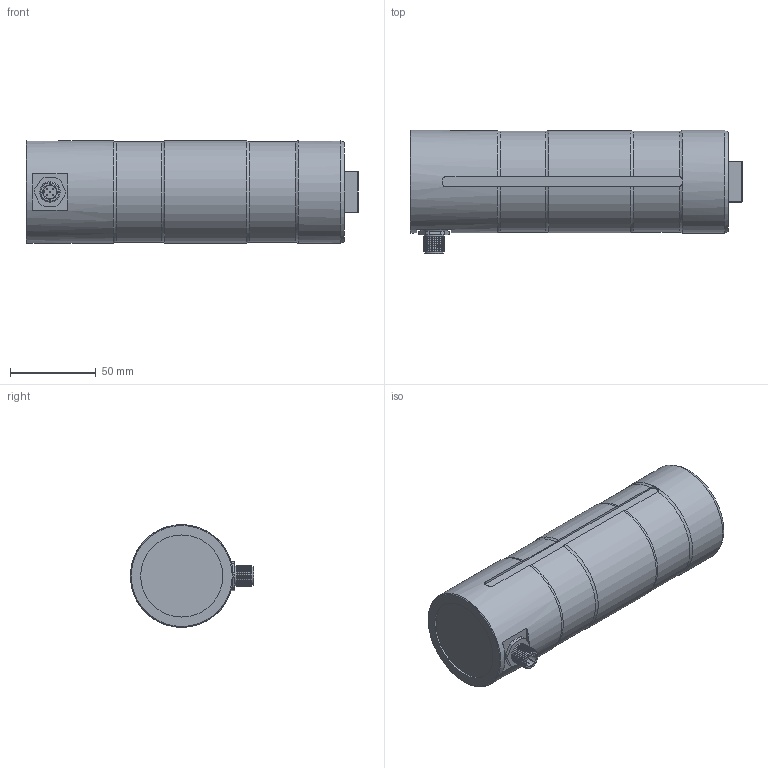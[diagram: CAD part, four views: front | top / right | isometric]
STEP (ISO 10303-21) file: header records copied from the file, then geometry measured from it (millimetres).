
FILE_DESCRIPTION(/* description */ ('Alibre Inc.'),/* implementation_level */ '2;1');
FILE_NAME(/* name */ 'export-D8C0DAAE-51BF-4E37-818E-D8114CFEE843',/* time_stamp */ '2020-02-28T15:23:49+01:00',/* author */ (''),/* organization */ (''),/* preprocessor_version */ 'ST-DEVELOPER v17',/* originating_system */ 'Alibre',/* authorisation */ '');
FILE_SCHEMA (('CONFIG_CONTROL_DESIGN'));
Length unit declared in the file: centimetre
Bounding box: 194 x 72 x 60 mm (x, y, z)
Volume: 642299 mm3; surface area: 197744.8 mm2
Topology: 7 solids, 8 shells, 223 faces, 485 edges, 286 vertices
Faces by surface type: cone 72, plane 71, cylinder 70, torus 10
Full cylindrical faces by diameter (mm): 0.5 x10, 8 x2, 10 x1, 11 x1, 11.5 x1, 12 x21, 13 x2, 14 x1, 14.5 x1, 48 x1, 60 x2
Entity records: 5307 total; most frequent: CARTESIAN_POINT 1132, ORIENTED_EDGE 758, DIRECTION 682, EDGE_CURVE 373, FACE_BOUND 340, EDGE_LOOP 339, AXIS2_PLACEMENT_3D 313, VERTEX_POINT 271
